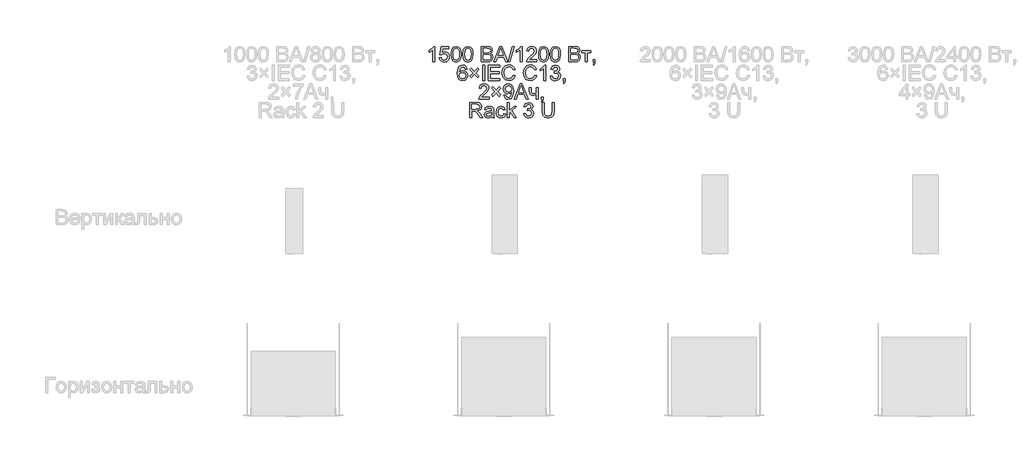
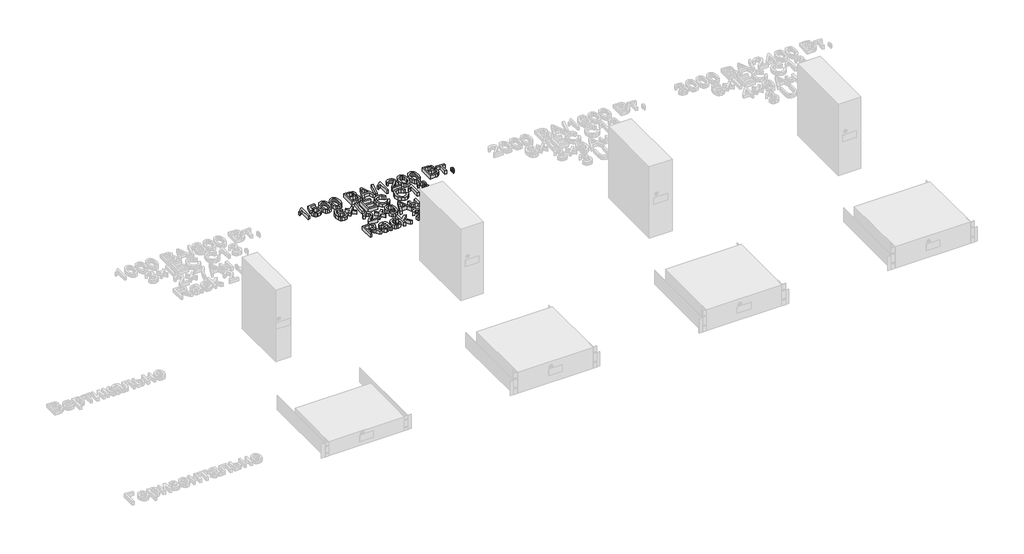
# One storey, part 72 of 74: 1 proxy.
"""IFC4 building model written with IfcOpenShell, lengths in millimetres."""

from ifc_helpers import new_model, si_unit, origin, origin_with_axes, place, context, project, spatial, polyline, outline, extrude, element, save

model = new_model("IFC4")

# Units and contexts
model_context = context("Model", 3, world=origin())
ifc_project = project(units=[si_unit("LENGTHUNIT", "METRE", prefix="MILLI")], contexts=[model_context])

# Site, building, storey
site = spatial("IfcSite", under=ifc_project)
building = spatial("IfcBuilding", under=site)
storey = spatial("IfcBuildingStorey", under=building, Name="Этаж 01", Elevation=0.0)

# Proxy
placement = place(None, origin())
element("IfcBuildingElementProxy", 1, Name="80 мм Arial", ObjectType="80 мм Arial", at=placement, inside=storey, context=model_context, shape_type="SweptSolid", body=[
    extrude(outline(polyline([(2087.0014242, 4962.3651415), (2076.9557932, 4962.3651415), (2076.9557932, 5024.9933724), (2067.4399122, 5018.2145335), (2056.8645311, 5013.142667), (2056.8645311, 5022.6389276), (2071.5896211, 5032.0370863), (2080.5267011, 5042.7301896), (2087.0014242, 5042.7301896), (2087.0014242, 4962.3651415)])), origin_with_axes(), (0.0, 0.0, 1.0), 20.0),
    extrude(outline(polyline([(2110.8597979, 4983.7121074), (2120.9054289, 4984.9678113), (2125.9674851, 4974.6180645), (2136.4643847, 4971.1550687), (2149.0606642, 4975.9718703), (2153.5537297, 4988.7545433), (2149.3451596, 5000.6837301), (2136.6213477, 5005.0590733), (2127.80199, 5003.3128601), (2122.1611327, 4998.780554), (2112.1155017, 5000.0362578), (2120.9054289, 5041.4744858), (2159.8322491, 5041.4744858), (2159.8322491, 5031.4288548), (2129.0282633, 5031.4288548), (2124.7314016, 5009.2970739), (2139.4270611, 5015.1047044), (2148.812957, 5013.3045351), (2156.6046977, 5007.9040274), (2161.8506949, 4999.6732809), (2163.5993607, 4989.3823953), (2162.0248257, 4979.3367642), (2157.3012209, 4970.7430408), (2148.2562289, 4963.5178384), (2136.425144, 4961.1094377), (2126.5585489, 4962.6569946), (2118.6981369, 4967.2996654), (2113.3098919, 4974.4978897), (2110.8597979, 4983.7121074)])), origin_with_axes(), (0.0, 0.0, 1.0), 20.0),
    extrude(outline(polyline([(2172.3892878, 5001.9001933), (2175.342154, 5025.0228029), (2184.1124607, 5038.3548465), (2198.7590692, 5042.7301896), (2210.4920523, 5040.1403004), (2218.5952664, 5032.6747484), (2223.304156, 5020.7848024), (2225.1288506, 5001.9001933), (2222.2054151, 4978.8756855), (2213.4645389, 4965.5142114), (2198.7590692, 4961.1094377), (2188.3210308, 4963.022424), (2180.3944, 4968.7613832), (2174.3905659, 4982.3533966), (2172.3892878, 5001.9001933)]), holes=[polyline([(2182.4349188, 5001.9198136), (2183.6121412, 4986.1180557), (2187.1438084, 4976.9725093), (2198.7590692, 4971.1550687), (2210.3743301, 4976.9921297), (2213.9059972, 4986.1425811), (2215.0832196, 5001.9198136), (2213.945238, 5017.3659524), (2210.5312931, 5026.5826226), (2205.2828433, 5031.1590746), (2198.641347, 5032.6845586), (2187.3007714, 5027.3085764), (2183.651382, 5017.5180102), (2182.4349188, 5001.9198136)])]), origin_with_axes(), (0.0, 0.0, 1.0), 20.0),
    extrude(outline(polyline([(2233.9187778, 5001.9001933), (2236.8716439, 5025.0228029), (2245.6419507, 5038.3548465), (2260.2885592, 5042.7301896), (2272.0215423, 5040.1403004), (2280.1247564, 5032.6747484), (2284.8336459, 5020.7848024), (2286.6583406, 5001.9001933), (2283.734905, 4978.8756855), (2274.9940288, 4965.5142114), (2260.2885592, 4961.1094377), (2249.8505207, 4963.022424), (2241.92389, 4968.7613832), (2235.9200558, 4982.3533966), (2233.9187778, 5001.9001933)]), holes=[polyline([(2243.9644088, 5001.9198136), (2245.1416312, 4986.1180557), (2248.6732983, 4976.9725093), (2260.2885592, 4971.1550687), (2271.9038201, 4976.9921297), (2275.4354872, 4986.1425811), (2276.6127096, 5001.9198136), (2275.474728, 5017.3659524), (2272.060783, 5026.5826226), (2266.8123332, 5031.1590746), (2260.170837, 5032.6845586), (2248.8302613, 5027.3085764), (2245.1808719, 5017.5180102), (2243.9644088, 5001.9198136)])]), origin_with_axes(), (0.0, 0.0, 1.0), 20.0),
    extrude(outline(polyline([(2330.6079763, 4962.3651415), (2330.6079763, 5042.7301896), (2361.2746194, 5042.7301896), (2376.294015, 5040.3659347), (2385.1624236, 5033.0965865), (2388.3703546, 5022.815511), (2385.6725533, 5013.4271625), (2377.5202883, 5006.3147772), (2387.4187665, 4998.8197947), (2390.8817624, 4986.3216171), (2388.5175074, 4975.5206017), (2382.6608261, 4967.8294154), (2373.9199499, 4963.7483778), (2361.0391749, 4962.3651415), (2330.6079763, 4962.3651415)]), holes=[polyline([(2340.6536073, 5010.0818888), (2358.9986561, 5010.0818888), (2369.7113798, 5010.9451853), (2376.1566724, 5014.663246), (2378.3247236, 5021.2066404), (2376.3038252, 5027.759845), (2370.5158151, 5031.6348687), (2357.6056097, 5032.6845586), (2340.6536073, 5032.6845586), (2340.6536073, 5010.0818888)]), polyline([(2340.6536073, 4972.4107725), (2361.2549991, 4972.4107725), (2368.7107408, 4972.80318), (2375.0186908, 4974.9908516), (2379.1978302, 4979.4544865), (2380.8361314, 4986.2235152), (2378.9133348, 4994.0324237), (2372.6838664, 4998.6922623), (2360.2739804, 5000.0362578), (2340.6536073, 5000.0362578), (2340.6536073, 4972.4107725)])]), origin_with_axes(), (0.0, 0.0, 1.0), 20.0),
    extrude(outline(polyline([(2395.3355871, 4962.3651415), (2427.4148971, 5042.7301896), (2435.9693797, 5042.7301896), (2468.0486897, 4962.3651415), (2457.4340679, 4962.3651415), (2448.2321129, 4987.4792191), (2415.1325435, 4987.4792191), (2405.9502089, 4962.3651415), (2395.3355871, 4962.3651415)]), holes=[polyline([(2418.8211737, 4997.5248501), (2444.5631031, 4997.5248501), (2437.3231855, 5017.2825658), (2431.6921384, 5032.6845586), (2426.6889433, 5019.0091586), (2418.8211737, 4997.5248501)])]), origin_with_axes(), (0.0, 0.0, 1.0), 20.0),
    extrude(outline(polyline([(2469.9911066, 4962.3651415), (2492.5937764, 5042.7301896), (2501.6583888, 5042.7301896), (2479.055719, 4962.3651415), (2469.9911066, 4962.3651415)])), origin_with_axes(), (0.0, 0.0, 1.0), 20.0),
    extrude(outline(polyline([(2544.0776354, 4962.3651415), (2534.0320044, 4962.3651415), (2534.0320044, 5024.9933724), (2524.5161234, 5018.2145335), (2513.9407423, 5013.142667), (2513.9407423, 5022.6389276), (2528.6658323, 5032.0370863), (2537.6029123, 5042.7301896), (2544.0776354, 5042.7301896), (2544.0776354, 4962.3651415)])), origin_with_axes(), (0.0, 0.0, 1.0), 20.0),
    extrude(outline(polyline([(2619.419868, 4972.4107725), (2619.419868, 4962.3651415), (2566.6803052, 4962.3651415), (2567.7594257, 4969.2911332), (2573.8613617, 4979.954806), (2586.4380208, 4991.5994974), (2603.7824306, 5008.3356756), (2608.1185331, 5019.715492), (2604.0276853, 5028.9272572), (2593.3443922, 5032.6845586), (2582.2098304, 5029.0155489), (2577.98164, 5018.871816), (2567.936009, 5020.1275199), (2570.3713878, 5029.8445096), (2575.6370055, 5036.9421796), (2583.4581767, 5041.2831871), (2593.5602163, 5042.7301896), (2603.7358323, 5041.1213191), (2611.5422882, 5036.2947073), (2616.5086951, 5029.0842202), (2618.1641641, 5020.3237236), (2616.3787102, 5010.7980325), (2610.4435473, 5000.9486052), (2596.0520037, 4987.1849135), (2584.4956039, 4977.5218797), (2579.9632977, 4972.4107725), (2619.419868, 4972.4107725)])), origin_with_axes(), (0.0, 0.0, 1.0), 20.0),
    extrude(outline(polyline([(2629.465499, 5001.9001933), (2632.4183651, 5025.0228029), (2641.1886719, 5038.3548465), (2655.8352804, 5042.7301896), (2667.5682635, 5040.1403004), (2675.6714776, 5032.6747484), (2680.3803671, 5020.7848024), (2682.2050618, 5001.9001933), (2679.2816262, 4978.8756855), (2670.54075, 4965.5142114), (2655.8352804, 4961.1094377), (2645.3972419, 4963.022424), (2637.4706112, 4968.7613832), (2631.4667771, 4982.3533966), (2629.465499, 5001.9001933)]), holes=[polyline([(2639.51113, 5001.9198136), (2640.6883524, 4986.1180557), (2644.2200196, 4976.9725093), (2655.8352804, 4971.1550687), (2667.4505413, 4976.9921297), (2670.9822084, 4986.1425811), (2672.1594308, 5001.9198136), (2671.0214492, 5017.3659524), (2667.6075043, 5026.5826226), (2662.3590545, 5031.1590746), (2655.7175582, 5032.6845586), (2644.3769825, 5027.3085764), (2640.7275931, 5017.5180102), (2639.51113, 5001.9198136)])]), origin_with_axes(), (0.0, 0.0, 1.0), 20.0),
    extrude(outline(polyline([(2690.994989, 5001.9001933), (2693.9478551, 5025.0228029), (2702.7181619, 5038.3548465), (2717.3647704, 5042.7301896), (2729.0977535, 5040.1403004), (2737.2009676, 5032.6747484), (2741.9098571, 5020.7848024), (2743.7345518, 5001.9001933), (2740.8111162, 4978.8756855), (2732.07024, 4965.5142114), (2717.3647704, 4961.1094377), (2706.9267319, 4963.022424), (2699.0001012, 4968.7613832), (2692.996267, 4982.3533966), (2690.994989, 5001.9001933)]), holes=[polyline([(2701.04062, 5001.9198136), (2702.2178424, 4986.1180557), (2705.7495095, 4976.9725093), (2717.3647704, 4971.1550687), (2728.9800312, 4976.9921297), (2732.5116984, 4986.1425811), (2733.6889208, 5001.9198136), (2732.5509391, 5017.3659524), (2729.1369942, 5026.5826226), (2723.8885444, 5031.1590746), (2717.2470481, 5032.6845586), (2705.9064725, 5027.3085764), (2702.2570831, 5017.5180102), (2701.04062, 5001.9198136)])]), origin_with_axes(), (0.0, 0.0, 1.0), 20.0),
    extrude(outline(polyline([(2787.6841875, 4962.3651415), (2787.6841875, 5042.7301896), (2818.3508306, 5042.7301896), (2833.3702262, 5040.3659347), (2842.2386348, 5033.0965865), (2845.4465658, 5022.815511), (2842.7487645, 5013.4271625), (2834.5964995, 5006.3147772), (2844.4949777, 4998.8197947), (2847.9579736, 4986.3216171), (2845.5937186, 4975.5206017), (2839.7370373, 4967.8294154), (2830.9961611, 4963.7483778), (2818.1153861, 4962.3651415), (2787.6841875, 4962.3651415)]), holes=[polyline([(2797.7298185, 5010.0818888), (2816.0748673, 5010.0818888), (2826.787591, 5010.9451853), (2833.2328836, 5014.663246), (2835.4009348, 5021.2066404), (2833.3800364, 5027.759845), (2827.5920263, 5031.6348687), (2814.6818208, 5032.6845586), (2797.7298185, 5032.6845586), (2797.7298185, 5010.0818888)]), polyline([(2797.7298185, 4972.4107725), (2818.3312102, 4972.4107725), (2825.786952, 4972.80318), (2832.0949019, 4974.9908516), (2836.2740414, 4979.4544865), (2837.9123426, 4986.2235152), (2835.989546, 4994.0324237), (2829.7600775, 4998.6922623), (2817.3501916, 5000.0362578), (2797.7298185, 5000.0362578), (2797.7298185, 4972.4107725)])]), origin_with_axes(), (0.0, 0.0, 1.0), 20.0),
    extrude(outline(polyline([(2855.4921968, 5021.3832237), (2903.2089442, 5021.3832237), (2903.2089442, 5011.3375927), (2884.373386, 5011.3375927), (2884.373386, 4962.3651415), (2874.327755, 4962.3651415), (2874.327755, 5011.3375927), (2855.4921968, 5011.3375927), (2855.4921968, 5021.3832237)])), origin_with_axes(), (0.0, 0.0, 1.0), 20.0),
    extrude(outline(polyline([(2914.5102791, 4962.3651415), (2914.5102791, 4972.4107725), (2924.5559101, 4972.4107725), (2924.5559101, 4962.3651415), (2922.7508357, 4952.0938762), (2917.0216868, 4946.0409911), (2914.5102791, 4949.8081028), (2918.1989092, 4954.1442052), (2919.5134742, 4962.3651415), (2914.5102791, 4962.3651415)])), origin_with_axes(), (0.0, 0.0, 1.0), 20.0),
    extrude(outline(polyline([(2257.1492995, 4923.8033695), (2247.1036685, 4922.5476656), (2243.2973161, 4930.9255649), (2233.2320647, 4935.1047044), (2224.1674524, 4932.6717781), (2217.310132, 4923.5384944), (2214.4553677, 4905.634904), (2223.3139661, 4913.6498264), (2234.2915649, 4916.2691462), (2243.5720013, 4914.4787872), (2251.3612895, 4909.10771), (2256.6440749, 4900.901489), (2258.4050034, 4890.6056982), (2255.0891603, 4876.7439046), (2245.9656869, 4866.9337181), (2232.8004165, 4863.5295834), (2221.4034323, 4865.7859263), (2212.3265572, 4872.554955), (2206.3889418, 4884.5037622), (2204.4097367, 4902.2994406), (2206.6072185, 4922.307316), (2213.1996638, 4935.9876211), (2222.20051, 4942.8596568), (2233.8599167, 4945.1503354), (2242.6743693, 4943.7327634), (2249.7327985, 4939.4800476), (2257.1492995, 4923.8033695)]), holes=[polyline([(2214.4553677, 4890.7626612), (2216.7803819, 4882.0610257), (2222.9607994, 4875.7432656), (2232.0156016, 4873.5752144), (2243.8564968, 4878.0682798), (2248.3593724, 4890.2721519), (2243.9153579, 4901.956084), (2231.6035738, 4906.2235152), (2219.4487526, 4901.956084), (2214.4553677, 4890.7626612)])]), origin_with_axes(), (0.0, 0.0, 1.0), 20.0),
    extrude(outline(polyline([(2271.0405236, 4887.387957), (2286.991887, 4904.3399594), (2271.0405236, 4921.2919617), (2277.2405615, 4930.0818888), (2294.2710454, 4912.0703864), (2311.2230477, 4930.0818888), (2317.4230856, 4921.2919617), (2301.4717223, 4904.3399594), (2317.4230856, 4887.387957), (2311.2230477, 4878.5980299), (2294.2710454, 4896.6095324), (2277.2405615, 4878.5980299), (2271.0405236, 4887.387957)])), origin_with_axes(), (0.0, 0.0, 1.0), 20.0),
    extrude(outline(polyline([(2337.5143476, 4864.7852873), (2337.5143476, 4945.1503354), (2347.5599786, 4945.1503354), (2347.5599786, 4864.7852873), (2337.5143476, 4864.7852873)])), origin_with_axes(), (0.0, 0.0, 1.0), 20.0),
    extrude(outline(polyline([(2367.6512407, 4864.7852873), (2367.6512407, 4945.1503354), (2425.413619, 4945.1503354), (2425.413619, 4935.1047044), (2377.6968717, 4935.1047044), (2377.6968717, 4911.2463307), (2422.9022113, 4911.2463307), (2422.9022113, 4901.2006997), (2377.6968717, 4901.2006997), (2377.6968717, 4874.8309183), (2426.6693229, 4874.8309183), (2426.6693229, 4864.7852873), (2367.6512407, 4864.7852873)])), origin_with_axes(), (0.0, 0.0, 1.0), 20.0),
    extrude(outline(polyline([(2498.2444439, 4893.3525505), (2508.2900749, 4890.7626612), (2503.6547617, 4879.0566561), (2496.3805084, 4870.504626), (2486.8253867, 4865.273344), (2475.3474685, 4863.5295834), (2454.441961, 4868.8074637), (2442.1792278, 4884.0917344), (2437.9706578, 4905.5760429), (2442.7285982, 4927.4135181), (2456.2568455, 4941.5696173), (2475.5632926, 4946.4060392), (2486.5776795, 4944.8413145), (2495.6839852, 4940.1471402), (2502.5977141, 4932.612917), (2507.034371, 4922.5280452), (2496.98874, 4920.1343597), (2488.7481833, 4932.4853846), (2475.1708851, 4936.3604082), (2459.4549663, 4932.0635465), (2450.5767475, 4920.5267672), (2448.0162888, 4905.5956633), (2451.0476364, 4888.2904942), (2460.4850359, 4877.234414), (2474.3468295, 4873.5752144), (2489.7193918, 4878.5587892), (2498.2444439, 4893.3525505)])), origin_with_axes(), (0.0, 0.0, 1.0), 20.0),
    extrude(outline(polyline([(2610.0020889, 4893.3525505), (2620.0477199, 4890.7626612), (2615.4124068, 4879.0566561), (2608.1381535, 4870.504626), (2598.5830318, 4865.273344), (2587.1051135, 4863.5295834), (2566.199606, 4868.8074637), (2553.9368728, 4884.0917344), (2549.7283028, 4905.5760429), (2554.4862433, 4927.4135181), (2568.0144905, 4941.5696173), (2587.3209376, 4946.4060392), (2598.3353246, 4944.8413145), (2607.4416302, 4940.1471402), (2614.3553592, 4932.612917), (2618.792016, 4922.5280452), (2608.746385, 4920.1343597), (2600.5058283, 4932.4853846), (2586.9285302, 4936.3604082), (2571.2126113, 4932.0635465), (2562.3343925, 4920.5267672), (2559.7739338, 4905.5956633), (2562.8052815, 4888.2904942), (2572.2426809, 4877.234414), (2586.1044745, 4873.5752144), (2601.4770368, 4878.5587892), (2610.0020889, 4893.3525505)])), origin_with_axes(), (0.0, 0.0, 1.0), 20.0),
    extrude(outline(polyline([(2667.7644672, 4864.7852873), (2657.7188362, 4864.7852873), (2657.7188362, 4927.4135181), (2648.2029553, 4920.6346792), (2637.6275742, 4915.5628128), (2637.6275742, 4925.0590733), (2652.3526642, 4934.457232), (2661.2897441, 4945.1503354), (2667.7644672, 4945.1503354), (2667.7644672, 4864.7852873)])), origin_with_axes(), (0.0, 0.0, 1.0), 20.0),
    extrude(outline(polyline([(2691.6228409, 4886.1322532), (2701.6684719, 4887.387957), (2707.2112273, 4876.8125759), (2717.5805945, 4873.5752144), (2729.7844665, 4878.0290391), (2734.3167727, 4889.0556887), (2729.8237073, 4899.4446763), (2718.4046502, 4903.5551445), (2711.3609362, 4902.4564036), (2712.4792975, 4912.5020346), (2714.0881681, 4912.3843123), (2725.4876048, 4915.2685072), (2730.5496611, 4924.1369158), (2726.8806513, 4931.9948752), (2717.4236315, 4935.1047044), (2707.8488894, 4931.9654447), (2702.9241758, 4922.5476656), (2692.8785448, 4923.8033695), (2701.0994811, 4939.558529), (2717.0704648, 4945.1503354), (2729.1860452, 4942.393673), (2737.6620463, 4934.8594497), (2740.5952921, 4924.725527), (2737.8091991, 4915.4647109), (2729.5686424, 4908.8134044), (2740.5168106, 4901.9462739), (2744.3624037, 4888.8791054), (2742.4396072, 4879.0885392), (2736.6712175, 4870.9068437), (2727.9646769, 4865.3738984), (2717.2274278, 4863.5295834), (2707.5153431, 4865.1041183), (2699.6083327, 4869.8277231), (2694.1097232, 4877.0529255), (2691.6228409, 4886.1322532)])), origin_with_axes(), (0.0, 0.0, 1.0), 20.0),
    extrude(outline(polyline([(2758.1751464, 4864.7852873), (2758.1751464, 4874.8309183), (2768.2207774, 4874.8309183), (2768.2207774, 4864.7852873), (2766.4157031, 4854.5140219), (2760.6865541, 4848.4611369), (2758.1751464, 4852.2282485), (2761.8637765, 4856.5643509), (2763.1783415, 4864.7852873), (2758.1751464, 4864.7852873)])), origin_with_axes(), (0.0, 0.0, 1.0), 20.0),
    extrude(outline(polyline([(2370.7905004, 4777.251064), (2370.7905004, 4767.205433), (2318.0509375, 4767.205433), (2319.1300581, 4774.1314247), (2325.2319941, 4784.7950974), (2337.8086532, 4796.4397889), (2355.153063, 4813.1759671), (2359.4891655, 4824.5557835), (2355.3983177, 4833.7675486), (2344.7150245, 4837.5248501), (2333.5804628, 4833.8558403), (2329.3522724, 4823.7121074), (2319.3066414, 4824.9678113), (2321.7420202, 4834.6848011), (2327.0076378, 4841.782471), (2334.8288091, 4846.1234786), (2344.9308487, 4847.5704811), (2355.1064646, 4845.9616105), (2362.9129206, 4841.1349987), (2367.8793275, 4833.9245116), (2369.5347965, 4825.164015), (2367.7493425, 4815.6383239), (2361.8141797, 4805.7888966), (2347.422636, 4792.0252049), (2335.8662363, 4782.3621712), (2331.3339301, 4777.251064), (2370.7905004, 4777.251064)])), origin_with_axes(), (0.0, 0.0, 1.0), 20.0),
    extrude(outline(polyline([(2384.6817245, 4789.8081028), (2400.6330878, 4806.7601051), (2384.6817245, 4823.7121074), (2390.8817624, 4832.5020346), (2407.9122462, 4814.4905321), (2424.8642486, 4832.5020346), (2431.0642865, 4823.7121074), (2415.1129231, 4806.7601051), (2431.0642865, 4789.8081028), (2424.8642486, 4781.0181756), (2407.9122462, 4799.0296781), (2390.8817624, 4781.0181756), (2384.6817245, 4789.8081028)])), origin_with_axes(), (0.0, 0.0, 1.0), 20.0),
    extrude(outline(polyline([(2447.3884369, 4787.296695), (2457.4340679, 4788.5523989), (2461.9467537, 4778.9678466), (2470.5012363, 4775.9953601), (2478.633881, 4777.9083465), (2484.1472058, 4783.0194537), (2487.4336183, 4791.7505197), (2488.8855259, 4803.4050213), (2488.8266648, 4805.3670586), (2480.792122, 4797.7543539), (2469.7752825, 4794.8309183), (2460.6150209, 4796.6163722), (2452.9900534, 4801.9727341), (2447.8470631, 4810.2476264), (2446.132733, 4820.7886718), (2447.9304497, 4831.6779789), (2453.3235997, 4840.2128412), (2461.4243612, 4845.7310711), (2471.3449124, 4847.5704811), (2485.6579745, 4843.3717213), (2495.5074018, 4831.4032937), (2498.8722958, 4808.9183461), (2495.517212, 4784.5204122), (2485.5402523, 4770.6978594), (2470.0303474, 4765.9497291), (2461.4415291, 4767.3501332), (2454.5891138, 4771.5513456), (2447.3884369, 4787.296695)]), holes=[polyline([(2488.8266648, 4821.0241163), (2484.4905623, 4833.0710254), (2472.9734033, 4837.5248501), (2460.8872535, 4832.7276689), (2456.178364, 4820.2981625), (2460.6321887, 4809.1636008), (2472.6987181, 4804.8765493), (2484.2845484, 4809.1636008), (2488.8266648, 4821.0241163)])]), origin_with_axes(), (0.0, 0.0, 1.0), 20.0),
    extrude(outline(polyline([(2502.0704166, 4767.205433), (2534.1497266, 4847.5704811), (2542.7042093, 4847.5704811), (2574.7835192, 4767.205433), (2564.1688974, 4767.205433), (2554.9669424, 4792.3195105), (2521.8673731, 4792.3195105), (2512.6850385, 4767.205433), (2502.0704166, 4767.205433)]), holes=[polyline([(2525.5560032, 4802.3651415), (2551.2979327, 4802.3651415), (2544.058015, 4822.1228572), (2538.4269679, 4837.5248501), (2533.4237728, 4823.84945), (2525.5560032, 4802.3651415)])]), origin_with_axes(), (0.0, 0.0, 1.0), 20.0),
    extrude(outline(polyline([(2580.4930478, 4826.2235152), (2590.5386788, 4826.2235152), (2590.5386788, 4814.9025599), (2591.3529243, 4804.2879381), (2595.2671887, 4798.5391688), (2603.0368565, 4796.0866221), (2616.9084602, 4799.12778), (2616.9084602, 4826.2235152), (2626.9540912, 4826.2235152), (2626.9540912, 4767.205433), (2616.9084602, 4767.205433), (2616.9084602, 4789.4941768), (2600.3488654, 4786.0409911), (2588.9592388, 4789.6413296), (2582.2588814, 4798.4606873), (2580.4930478, 4809.9386055), (2580.4930478, 4826.2235152)])), origin_with_axes(), (0.0, 0.0, 1.0), 20.0),
    extrude(outline(polyline([(2644.5339455, 4767.205433), (2644.5339455, 4777.251064), (2654.5795765, 4777.251064), (2654.5795765, 4767.205433), (2652.7745022, 4756.9341677), (2647.0453533, 4750.8812826), (2644.5339455, 4754.6483942), (2648.2225757, 4758.9844967), (2649.5371407, 4767.205433), (2644.5339455, 4767.205433)])), origin_with_axes(), (0.0, 0.0, 1.0), 20.0),
    extrude(outline(polyline([(2269.0784863, 4669.6255787), (2269.0784863, 4749.9906268), (2303.7084448, 4749.9906268), (2319.7873406, 4747.8225756), (2328.5772677, 4740.1510097), (2331.8636802, 4727.9961886), (2326.4190267, 4713.5163533), (2309.5945567, 4706.0409911), (2315.3040853, 4701.7441294), (2323.4465401, 4691.4041928), (2336.8472549, 4669.6255787), (2325.173133, 4669.6255787), (2314.7154741, 4686.2832754), (2307.1616305, 4697.3099251), (2301.8543196, 4702.5191342), (2297.0767587, 4704.4321205), (2291.2495079, 4704.7852873), (2279.1241174, 4704.7852873), (2279.1241174, 4669.6255787), (2269.0784863, 4669.6255787)]), holes=[polyline([(2279.1241174, 4714.8309183), (2301.6090649, 4714.8309183), (2313.077173, 4716.2533953), (2319.5911368, 4720.8053219), (2321.8180492, 4727.6234015), (2317.5702384, 4736.4721898), (2304.140093, 4739.9449958), (2279.1241174, 4739.9449958), (2279.1241174, 4714.8309183)])]), origin_with_axes(), (0.0, 0.0, 1.0), 20.0),
    extrude(outline(polyline([(2385.8589469, 4677.159802), (2376.1174317, 4670.3515325), (2365.355657, 4668.3698748), (2350.7679096, 4673.1376255), (2345.6764228, 4685.3218772), (2347.5992194, 4693.2681283), (2352.6514655, 4699.0365179), (2359.6853692, 4702.3327406), (2368.3771945, 4703.8435093), (2385.8000858, 4707.296695), (2385.8589469, 4709.5334175), (2383.0924743, 4716.9499186), (2371.9873431, 4719.8537338), (2361.8239899, 4717.921127), (2356.9777577, 4711.0638066), (2346.9321267, 4712.3195105), (2351.2780393, 4722.1296971), (2360.0287257, 4727.8784664), (2373.2822877, 4729.8993648), (2385.4567292, 4728.1139108), (2392.33367, 4723.6306556), (2395.4140686, 4716.8125759), (2395.9045779, 4708.0226488), (2395.9045779, 4695.5244712), (2396.4147076, 4678.0721493), (2398.4159857, 4669.6255787), (2388.3703546, 4669.6255787), (2385.8589469, 4677.159802)]), holes=[polyline([(2385.8589469, 4697.251064), (2369.6525187, 4694.1706654), (2361.0097444, 4692.5421745), (2357.09548, 4689.8934241), (2355.7220538, 4686.0282106), (2358.7141607, 4680.5933672), (2367.4942777, 4678.4155058), (2377.6576309, 4680.8190015), (2384.2108356, 4686.6364422), (2385.8000858, 4694.4061099), (2385.8589469, 4697.251064)])]), origin_with_axes(), (0.0, 0.0, 1.0), 20.0),
    extrude(outline(polyline([(2447.3884369, 4690.9725446), (2457.4340679, 4689.7168407), (2454.6332596, 4680.7822133), (2449.3700945, 4674.0303525), (2433.4383516, 4668.3698748), (2422.7526059, 4670.3441749), (2414.3967795, 4676.267075), (2409.0036295, 4685.8786052), (2407.2059128, 4698.9187957), (2410.2765012, 4715.605923), (2419.6354191, 4726.3284569), (2433.301009, 4729.8993648), (2448.5754694, 4724.9942715), (2456.178364, 4711.0638066), (2446.132733, 4709.8081028), (2441.4728944, 4717.3325158), (2433.3794905, 4719.8537338), (2421.7347991, 4714.8897794), (2417.2515438, 4699.1934809), (2421.6366972, 4683.3500297), (2433.1048053, 4678.4155058), (2442.5716353, 4681.4959044), (2447.3884369, 4690.9725446)])), origin_with_axes(), (0.0, 0.0, 1.0), 20.0),
    extrude(outline(polyline([(2466.223995, 4669.6255787), (2466.223995, 4749.9906268), (2476.269626, 4749.9906268), (2476.269626, 4706.8061857), (2498.7938143, 4728.6436609), (2512.6850385, 4728.6436609), (2489.8861649, 4706.5315005), (2513.9407423, 4669.6255787), (2502.2077592, 4669.6255787), (2482.685488, 4699.5466476), (2476.269626, 4693.3269894), (2476.269626, 4669.6255787), (2466.223995, 4669.6255787)])), origin_with_axes(), (0.0, 0.0, 1.0), 20.0),
    extrude(outline(polyline([(2551.6118586, 4690.9725446), (2561.6574897, 4692.2282485), (2567.200245, 4681.6528674), (2577.5696122, 4678.4155058), (2589.7734843, 4682.8693305), (2594.3057904, 4693.8959802), (2589.812725, 4704.2849677), (2578.3936679, 4708.3954359), (2571.349954, 4707.296695), (2572.4683152, 4717.342326), (2574.0771858, 4717.2246038), (2585.4766226, 4720.1087986), (2590.5386788, 4728.9772073), (2586.8696691, 4736.8351667), (2577.4126492, 4739.9449958), (2567.8379072, 4736.8057361), (2562.9131935, 4727.387957), (2552.8675625, 4728.6436609), (2561.0884988, 4744.3988205), (2577.0594825, 4749.9906268), (2589.1750629, 4747.2339644), (2597.6510641, 4739.6997411), (2600.5843098, 4729.5658184), (2597.7982169, 4720.3050024), (2589.5576602, 4713.6536959), (2600.5058283, 4706.7865653), (2604.3514215, 4693.7193968), (2602.4286249, 4683.9288307), (2596.6602352, 4675.7471351), (2587.9536947, 4670.2141899), (2577.2164455, 4668.3698748), (2567.5043608, 4669.9444098), (2559.5973505, 4674.6680146), (2554.0987409, 4681.893217), (2551.6118586, 4690.9725446)])), origin_with_axes(), (0.0, 0.0, 1.0), 20.0),
    extrude(outline(polyline([(2701.04062, 4749.9906268), (2711.086251, 4749.9906268), (2711.086251, 4703.6276852), (2708.3590191, 4684.4095298), (2698.5292122, 4672.8335097), (2679.8898578, 4668.3698748), (2661.5349988, 4672.2547087), (2651.3520252, 4683.5069927), (2648.3010572, 4703.6276852), (2648.3010572, 4749.9906268), (2658.3466882, 4749.9906268), (2658.3466882, 4703.980852), (2660.3283459, 4688.6671508), (2667.1366153, 4681.0838766), (2678.9480799, 4678.4155058), (2689.1653892, 4679.7349759), (2695.9589434, 4683.6933862), (2699.7702008, 4691.4041928), (2701.04062, 4703.980852), (2701.04062, 4749.9906268)])), origin_with_axes(), (0.0, 0.0, 1.0), 20.0),
])

save(model, "model.ifc")
